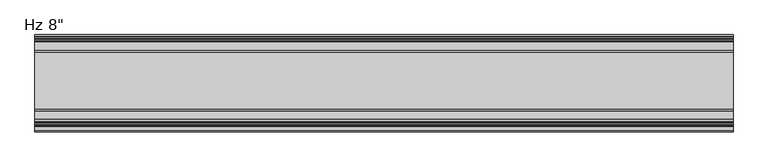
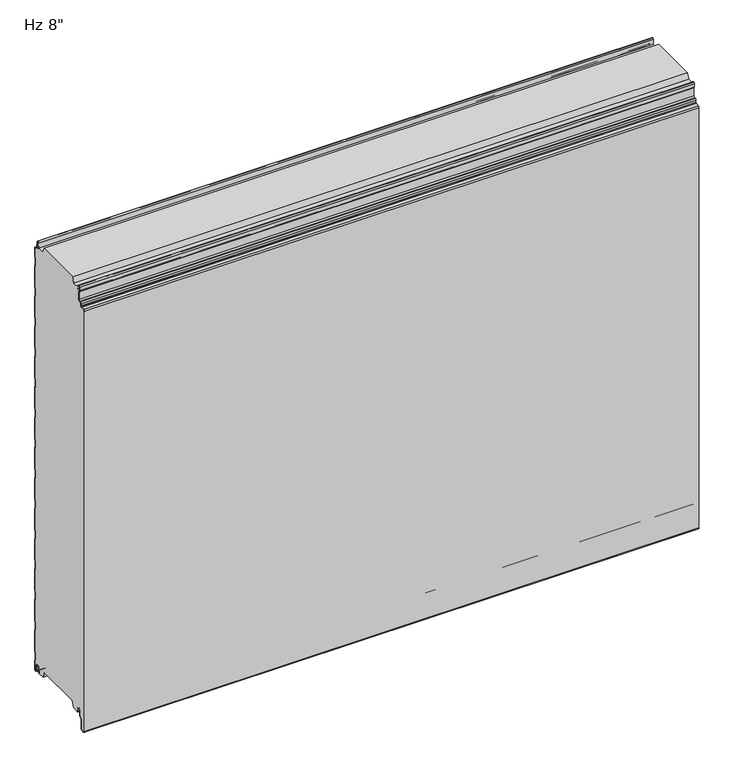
"""IFC4 building model written with IfcOpenShell, lengths in millimetres: plate geometry."""

import ifcopenshell
import ifcopenshell.guid

model = None  # the IFC model being written
_history = None  # IfcOwnerHistory: only IFC2X3 demands one
_inside = {}  # id of a spatial element -> (the spatial element, [elements in it])
_under = {}  # id of a project, library or spatial element -> (it, [spatial elements below it])
_declared = {}  # id of a project -> (the project, [libraries it declares])
_typed = {}  # id of a type object -> (the type object, [elements of that type])
_made_of = {}  # id of a material, layer set ... -> (it, [elements and type objects made of it])


def new_model(schema):
    """Start an empty IFC model of exactly this schema.

    Asked for "IFC4X3", IfcOpenShell would pick the latest addendum, in which some entities
    have other attributes; the version numbers below select the first issue.
    IFC2X3 requires an IfcOwnerHistory on every rooted entity: one is made here for all.
    """
    global model, _history
    if schema == "IFC4X3":
        model = ifcopenshell.file(schema_version=(4, 3, 0, 0))
    else:
        model = ifcopenshell.file(schema=schema)
    _inside.clear()
    _under.clear()
    _declared.clear()
    _typed.clear()
    _made_of.clear()
    _history = None
    if model.schema == "IFC2X3":
        org = make("IfcOrganization", Name="unknown")
        user = make(
            "IfcPersonAndOrganization",
            ThePerson=make("IfcPerson", FamilyName="unknown"),
            TheOrganization=org,
        )
        app = make(
            "IfcApplication",
            ApplicationDeveloper=org,
            Version="unknown",
            ApplicationFullName="unknown",
            ApplicationIdentifier="unknown",
        )
        _history = make(
            "IfcOwnerHistory",
            OwningUser=user,
            OwningApplication=app,
            ChangeAction="ADDED",
            CreationDate=0,
        )
    return model


def make(cls, **values):
    """One entity of the class cls with the attributes given. An attribute that is None is left unset."""
    return model.create_entity(
        cls, **{name: value for name, value in values.items() if value is not None}
    )


def rooted(cls, **values):
    """An entity with a GlobalId (a new one), such as an element, a storey or a relation."""
    return make(cls, GlobalId=ifcopenshell.guid.new(), OwnerHistory=_history, **values)


def si_unit(unit_type, name, prefix=None):
    """IfcSIUnit, for example si_unit("LENGTHUNIT", "METRE", prefix="MILLI")."""
    return make("IfcSIUnit", UnitType=unit_type, Prefix=prefix, Name=name)


def assignment(units):
    """IfcUnitAssignment: the units of a project."""
    return None if units is None else make("IfcUnitAssignment", Units=units)


def point(xyz):
    """IfcCartesianPoint."""
    return None if xyz is None else make("IfcCartesianPoint", Coordinates=xyz)


def direction(xyz):
    """IfcDirection."""
    return None if xyz is None else make("IfcDirection", DirectionRatios=xyz)


def frame(location, z_axis=None, x_axis=None):
    """IfcAxis2Placement3D, a coordinate frame: its origin and axes. An axis left out is left unset."""
    return make(
        "IfcAxis2Placement3D",
        Location=point(location),
        Axis=direction(z_axis),
        RefDirection=direction(x_axis),
    )


def frame_2d(location, x_axis=None):
    """IfcAxis2Placement2D, a coordinate frame in the plane: its origin and x axis."""
    return make(
        "IfcAxis2Placement2D", Location=point(location), RefDirection=direction(x_axis)
    )


def origin():
    """The frame at (0, 0, 0) with its axes left unset."""
    return frame((0.0, 0.0, 0.0))


def place(relative_to, where):
    """IfcLocalPlacement: puts the frame where relative to a parent placement (None: the world)."""
    return make(
        "IfcLocalPlacement", PlacementRelTo=relative_to, RelativePlacement=where
    )


def context(
    kind, dimensions, precision=None, world=None, true_north=None, identifier=None
):
    """IfcGeometricRepresentationContext, for example the 3D "Model" context."""
    return make(
        "IfcGeometricRepresentationContext",
        ContextIdentifier=identifier,
        ContextType=kind,
        CoordinateSpaceDimension=dimensions,
        Precision=precision,
        WorldCoordinateSystem=world,
        TrueNorth=true_north,
    )


def project(units=None, contexts=None):
    """IfcProject with its units and contexts."""
    return rooted(
        "IfcProject",
        Name="project",
        RepresentationContexts=contexts,
        UnitsInContext=assignment(units),
    )


def spatial(cls, under=None, at=None, **own):
    """A site, building, storey or space (cls), placed at a placement, below another one or the project."""
    s = rooted(cls, ObjectPlacement=at, **own)
    if under is not None:
        _under.setdefault(under.id(), (under, []))[1].append(s)
    return s


def polyline(points):
    """IfcPolyline through the points."""
    return make("IfcPolyline", Points=[point(p) for p in points])


def circle_curve(where, radius):
    """IfcCircle in the frame where."""
    return make("IfcCircle", Position=where, Radius=radius)


def trimmed(basis, trim1, trim2, sense, master):
    """IfcTrimmedCurve: the piece of a basis curve between two trims."""
    return make(
        "IfcTrimmedCurve",
        BasisCurve=basis,
        Trim1=trim1,
        Trim2=trim2,
        SenseAgreement=sense,
        MasterRepresentation=master,
    )


def segment(curve, same_sense, transition):
    """IfcCompositeCurveSegment."""
    return make(
        "IfcCompositeCurveSegment",
        Transition=transition,
        SameSense=same_sense,
        ParentCurve=curve,
    )


def composite_curve(segments, self_intersect=None):
    """IfcCompositeCurve: segments joined end to end."""
    return make("IfcCompositeCurve", Segments=segments, SelfIntersect=self_intersect)


def outline(outer, holes=None, kind="AREA"):
    """IfcArbitraryClosedProfileDef: a profile drawn as a closed curve; with holes, ...WithVoids."""
    if holes is None:
        return make("IfcArbitraryClosedProfileDef", ProfileType=kind, OuterCurve=outer)
    return make(
        "IfcArbitraryProfileDefWithVoids",
        ProfileType=kind,
        OuterCurve=outer,
        InnerCurves=holes,
    )


def extrude(swept, where, along, depth):
    """IfcExtrudedAreaSolid: the profile swept, set in the frame where, extruded along a direction by depth."""
    return make(
        "IfcExtrudedAreaSolid",
        SweptArea=swept,
        Position=where,
        ExtrudedDirection=direction(along),
        Depth=depth,
    )


def shape(context_of_items, identifier, shape_type, items):
    """IfcShapeRepresentation: the items that make up one representation, for example the "Body"."""
    return make(
        "IfcShapeRepresentation",
        ContextOfItems=context_of_items,
        RepresentationIdentifier=identifier,
        RepresentationType=shape_type,
        Items=items,
    )


def source(mapping_origin, context_of_items, identifier, shape_type, items):
    """IfcRepresentationMap: a shape defined once, which mapped items show again and again."""
    return make(
        "IfcRepresentationMap",
        MappingOrigin=mapping_origin,
        MappedRepresentation=shape(context_of_items, identifier, shape_type, items),
    )


def transform(
    local_origin,
    x_axis=None,
    y_axis=None,
    z_axis=None,
    scale=None,
    scale2=None,
    scale3=None,
    uniform=True,
):
    """IfcCartesianTransformationOperator3D, or its non-uniform kind. x_axis, y_axis, z_axis: its Axis1, 2, 3."""
    if uniform:
        return make(
            "IfcCartesianTransformationOperator3D",
            Axis1=direction(x_axis),
            Axis2=direction(y_axis),
            LocalOrigin=point(local_origin),
            Scale=scale,
            Axis3=direction(z_axis),
        )
    return make(
        "IfcCartesianTransformationOperator3DnonUniform",
        Axis1=direction(x_axis),
        Axis2=direction(y_axis),
        LocalOrigin=point(local_origin),
        Scale=scale,
        Axis3=direction(z_axis),
        Scale2=scale2,
        Scale3=scale3,
    )


def mapped(mapping_source, mapping_target):
    """IfcMappedItem: shows the shape of a source again, moved by a transform."""
    return make(
        "IfcMappedItem", MappingSource=mapping_source, MappingTarget=mapping_target
    )


def made_of(thing, what):
    """Note that an element or type object is made of a material, layer set ...; save() writes the relation."""
    if what is not None:
        _made_of.setdefault(what.id(), (what, []))[1].append(thing)
    return thing


def element(
    cls,
    number,
    at=None,
    inside=None,
    cuts=None,
    type_object=None,
    material=None,
    context=None,
    identifier="Body",
    shape_type=None,
    held_by="IfcProductDefinitionShape",
    body=None,
    shapes=None,
    **own,
):
    """One element of the class cls, such as IfcWall. Its Tag is "e" and its number.

    at: its placement. inside: the storey or other place that contains it. cuts: it is an
    opening in that element (IfcRelVoidsElement). A single representation is given by context,
    identifier, shape_type and body (its items); several are given by shapes. held_by: the class
    of the entity that holds the representations. save() writes the other relations.
    """
    e = rooted(cls, Tag="e%d" % number, ObjectPlacement=at, **own)
    if body is not None:
        shapes = [shape(context, identifier, shape_type, body)]
    if shapes is not None:
        e.Representation = make(held_by, Representations=shapes)
    if inside is not None:
        _inside.setdefault(inside.id(), (inside, []))[1].append(e)
    if cuts is not None:
        rooted(
            "IfcRelVoidsElement", RelatingBuildingElement=cuts, RelatedOpeningElement=e
        )
    if type_object is not None:
        _typed.setdefault(type_object.id(), (type_object, []))[1].append(e)
    return made_of(e, material)


def aggregate(whole, parts):
    """IfcRelAggregates: a whole, such as a stair, and the parts it consists of."""
    return rooted("IfcRelAggregates", RelatingObject=whole, RelatedObjects=parts)


def save(model, path):
    """Write the relations noted so far, then the file.

    IfcRelAggregates (storeys below a building ...), IfcRelContainedInSpatialStructure (elements
    in a storey), IfcRelDefinesByType, IfcRelAssociatesMaterial and IfcRelDeclares: one each for
    every whole, place, type object, material and project.
    """
    for whole, parts in _under.values():
        aggregate(whole, parts)
    for where, things in _inside.values():
        rooted(
            "IfcRelContainedInSpatialStructure",
            RelatedElements=things,
            RelatingStructure=where,
        )
    for kind, things in _typed.values():
        rooted("IfcRelDefinesByType", RelatedObjects=things, RelatingType=kind)
    for what, things in _made_of.values():
        rooted("IfcRelAssociatesMaterial", RelatedObjects=things, RelatingMaterial=what)
    for by, libraries in _declared.values():
        rooted("IfcRelDeclares", RelatingContext=by, RelatedDefinitions=libraries)
    model.write(path)


def plate_1017e4c0(model_context):
    return source(origin(), model_context, "Body", "SweptSolid", [
        extrude(outline(composite_curve([segment(trimmed(circle_curve(frame_2d((-178.4545168, 7.3245305)), 3.3499999), [point((-175.1045169, 7.3245305))], [point((-178.4545168, 10.6745305))], True, "CARTESIAN"), True, "CONTINUOUS"), segment(polyline([(-178.4545168, 10.6745305), (-182.8545166, 10.6745305)]), True, "CONTINUOUS"), segment(trimmed(circle_curve(frame_2d((-182.8545166, 7.3245305)), 3.3499999), [point((-182.8545166, 10.6745305))], [point((-186.2045165, 7.3245305))], True, "CARTESIAN"), True, "CONTINUOUS"), segment(polyline([(-186.2045165, 7.3245305), (-186.2045165, -4.4863817)]), True, "CONTINUOUS"), segment(trimmed(circle_curve(frame_2d((-187.9045165, -4.4863817)), 1.7), [point((-186.2045165, -4.4863817))], [point((-186.702435, -5.6884632))], False, "CARTESIAN"), True, "CONTINUOUS"), segment(polyline([(-186.702435, -5.6884632), (-191.4429939, -10.4290221)]), True, "CONTINUOUS"), segment(trimmed(circle_curve(frame_2d((-189.6045163, -12.2674998)), 2.6), [point((-191.4429939, -10.4290221))], [point((-192.2045163, -12.2674998))], True, "CARTESIAN"), True, "CONTINUOUS"), segment(polyline([(-192.2045163, -12.2674998), (-192.2045163, -33.274257)]), True, "CONTINUOUS"), segment(trimmed(circle_curve(frame_2d((-194.9045163, -33.274257)), 2.7), [point((-192.2045163, -33.274257))], [point((-194.6689835, -35.9639641))], False, "CARTESIAN"), True, "CONTINUOUS"), segment(polyline([(-194.6689835, -35.9639641), (-199.4159721, -36.3796493)]), True, "CONTINUOUS"), segment(trimmed(circle_curve(frame_2d((-199.6393488, -33.8287598)), 2.5606512), [point((-199.4159721, -36.3796493))], [point((-202.2, -33.8287598))], False, "CARTESIAN"), True, "CONTINUOUS"), segment(polyline([(-202.2, -33.8287598), (-202.2, 1021.0519049)]), True, "CONTINUOUS"), segment(trimmed(circle_curve(frame_2d((-200.3102824, 1021.0519049)), 1.8897176), [point((-202.2, 1021.0519049))], [point((-200.4750281, 1022.9344276))], False, "CARTESIAN"), True, "CONTINUOUS"), segment(polyline([(-200.4750281, 1022.9344276), (-191.9438082, 1023.6810226)]), True, "CONTINUOUS"), segment(trimmed(circle_curve(frame_2d((-192.2077531, 1026.6970773)), 3.027582), [point((-191.9438082, 1023.6810226))], [point((-190.3647769, 1024.2950591))], True, "CARTESIAN"), True, "CONTINUOUS"), segment(trimmed(circle_curve(frame_2d((-192.1909631, 1026.6751943)), 3.0), [point((-190.3647769, 1024.2950591))], [point((-189.1909787, 1026.6848525))], True, "CARTESIAN"), True, "CONTINUOUS"), segment(polyline([(-189.1909787, 1026.6848525), (-189.1909787, 1032.044966)]), True, "CONTINUOUS"), segment(trimmed(circle_curve(frame_2d((-187.3909787, 1032.044966)), 1.8), [point((-189.1909787, 1032.044966))], [point((-187.3909787, 1033.844966))], False, "CARTESIAN"), True, "CONTINUOUS"), segment(polyline([(-187.3909787, 1033.844966), (-185.100418, 1033.844966)]), True, "CONTINUOUS"), segment(trimmed(circle_curve(frame_2d((-185.100418, 1037.844966)), 4.0), [point((-185.100418, 1033.844966))], [point((-181.100418, 1037.844966))], True, "CARTESIAN"), True, "CONTINUOUS"), segment(polyline([(-181.100418, 1037.844966), (-181.100418, 1057.3824408)]), True, "CONTINUOUS"), segment(trimmed(circle_curve(frame_2d((-183.700418, 1057.3824408)), 2.6), [point((-181.100418, 1057.3824408))], [point((-181.9919416, 1059.3423154))], True, "CARTESIAN"), True, "CONTINUOUS"), segment(polyline([(-181.9919416, 1059.3423154), (-183.0769402, 1060.2881384), (-182.7263694, 1069.143097)]), True, "CONTINUOUS"), segment(trimmed(circle_curve(frame_2d((-180.6261346, 1069.059948)), 2.10188), [point((-182.7263694, 1069.143097))], [point((-178.5257796, 1069.1400009))], False, "CARTESIAN"), True, "CONTINUOUS"), segment(polyline([(-178.5257796, 1069.1400009), (-178.0370324, 1061.1295249), (-177.0388885, 1061.1904252), (-177.3157133, 1065.7275311), (-160.4948412, 1065.7275311), (-155.3615374, 1078.9274638), (-37.6469837, 1078.9274638), (-32.5136753, 1065.7275311), (-15.2947081, 1065.7275311), (-15.4069152, 1064.1283001), (-14.4093676, 1064.058309), (-13.4643757, 1077.5268011)]), True, "CONTINUOUS"), segment(trimmed(circle_curve(frame_2d((-11.7334815, 1077.4116442)), 1.7347206), [point((-13.4643757, 1077.5268011))], [point((-10.0073134, 1077.5836892))], False, "CARTESIAN"), True, "CONTINUOUS"), segment(polyline([(-10.0073134, 1077.5836892), (-8.4976379, 1063.0309438)]), True, "CONTINUOUS"), segment(trimmed(circle_curve(frame_2d((-4.0912842, 1063.4880509)), 4.43), [point((-8.4976379, 1063.0309438))], [point((-4.0912842, 1059.0580509))], True, "CARTESIAN"), True, "CONTINUOUS"), segment(polyline([(-4.0912842, 1059.0580509), (-2.3999791, 1059.0580509)]), True, "CONTINUOUS"), segment(trimmed(circle_curve(frame_2d((-2.3999791, 1057.6580509)), 1.4), [point((-2.3999791, 1059.0580509))], [point((-0.9999791, 1057.6580509))], False, "CARTESIAN"), True, "CONTINUOUS"), segment(polyline([(-0.9999791, 1057.6580509), (-0.9999791, 1034.7726138), (-2.2002307, 1033.5723621), (-2.2002307, 1013.9369024), (-1.0, 1012.7366717), (-1.0, 958.5891837), (-2.2002307, 957.3889529), (-2.2002307, 937.7534932), (-1.0, 936.5532625), (-1.0, 882.4057744), (-2.2002307, 881.2055437), (-2.2002307, 861.570084), (-1.0, 860.3698532), (-1.0, 806.2223652), (-2.2002307, 805.0221345), (-2.2002307, 785.3866748), (-1.0, 784.186444), (-1.0, 730.0225176), (-2.2002307, 728.8222869), (-2.2002307, 709.1868272), (-1.0, 707.9865964), (-1.0, 653.8391084), (-2.2002307, 652.6388777), (-2.2002307, 633.0034179), (-1.0, 631.8031872), (-1.0, 577.6556992), (-2.2002307, 576.4554684), (-2.2002307, 556.8200087), (-1.0, 555.619778), (-1.0, 501.4558516), (-2.2002307, 500.2556208), (-2.2002307, 480.6201611), (-1.0, 479.4199304), (-1.0, 425.2724424), (-2.2002307, 424.0722116), (-2.2002307, 404.4367519), (-1.0, 403.2365211), (-1.0, 349.0890331), (-2.2002307, 347.8888024), (-2.2002307, 328.2533427), (-1.0, 327.0531119), (-1.0, 272.8891855), (-2.2002307, 271.6889548), (-2.2002307, 252.0534951), (-1.0, 250.8532643), (-1.0, 196.7057763), (-2.2002307, 195.5055456), (-2.2002307, 175.8700858), (-1.0, 174.6698551), (-1.0, 120.5223671), (-2.2002307, 119.3221364), (-2.2002307, 99.6866766), (-1.0, 98.4864459), (-1.0, 44.3225195), (-2.2002307, 43.1222888), (-2.2002307, 23.486829), (-1.0000103, 22.2866086), (-1.0000103, -0.3839769)]), True, "CONTINUOUS"), segment(trimmed(circle_curve(frame_2d((-2.3984828, -0.4487243)), 1.3999705), [point((-1.0000103, -0.3839769))], [point((-2.3984828, -1.8486949))], False, "CARTESIAN"), True, "CONTINUOUS"), segment(polyline([(-2.3984828, -1.8486949), (-3.9515996, -1.8486949)]), True, "CONTINUOUS"), segment(trimmed(circle_curve(frame_2d((-3.9515996, 0.3613604)), 2.2100553), [point((-3.9515996, -1.8486949))], [point((-6.1616549, 0.3613604))], False, "CARTESIAN"), True, "CONTINUOUS"), segment(polyline([(-6.1616549, 0.3613604), (-6.1616549, 13.8905885)]), True, "CONTINUOUS"), segment(trimmed(circle_curve(frame_2d((-9.881641, 13.8905885)), 3.7199861), [point((-6.1616549, 13.8905885))], [point((-9.881641, 17.6105746))], True, "CARTESIAN"), True, "CONTINUOUS"), segment(polyline([(-9.881641, 17.6105746), (-13.5282389, 17.6105746)]), True, "CONTINUOUS"), segment(trimmed(circle_curve(frame_2d((-13.5282389, 13.8905782)), 3.7199964), [point((-13.5282389, 17.6105746))], [point((-17.2482353, 13.8905782))], True, "CARTESIAN"), True, "CONTINUOUS"), segment(polyline([(-17.2482353, 13.8905782), (-17.2482353, 7.5454603), (-18.1704184, 7.7080661), (-19.2730843, 1.454537)]), True, "CONTINUOUS"), segment(trimmed(circle_curve(frame_2d((-17.7722363, 1.189897)), 1.524001), [point((-19.2730843, 1.454537))], [point((-18.7244571, 0.0))], True, "CARTESIAN"), True, "CONTINUOUS"), segment(polyline([(-18.7244571, 0.0), (-33.5050578, 0.0), (-39.1301019, 14.9979533), (-153.3686066, 14.9979533), (-158.9928342, 0.0), (-174.0748213, 0.0)]), True, "CONTINUOUS"), segment(trimmed(circle_curve(frame_2d((-174.9060323, 0.8654988)), 1.2), [point((-174.0748213, 0.0))], [point((-173.7060333, 0.8670134))], True, "CARTESIAN"), True, "CONTINUOUS"), segment(polyline([(-173.7060333, 0.8670134), (-173.7060333, 4.6254142), (-175.1045169, 4.6254142), (-175.1045169, 7.3245305)]), True, "CONTINUOUS")], self_intersect=False)), frame((-730.0, 0.0, 0.0), z_axis=(1.0, 0.0, 0.0), x_axis=(0.0, 1.0, 0.0)), (0.0, 0.0, 1.0), 1460.0),
        extrude(outline(composite_curve([segment(trimmed(circle_curve(frame_2d((-2.3984828, -0.4487243)), 2.3999705), [point((-1.03e-05, -0.3639402))], [point((-2.3984828, -2.8486949))], False, "CARTESIAN"), True, "CONTINUOUS"), segment(polyline([(-2.3984828, -2.8486949), (-3.9515996, -2.8486949)]), True, "CONTINUOUS"), segment(trimmed(circle_curve(frame_2d((-3.9515996, 0.3613604)), 3.2100553), [point((-3.9515996, -2.8486949))], [point((-7.1616549, 0.3613604))], False, "CARTESIAN"), True, "CONTINUOUS"), segment(polyline([(-7.1616549, 0.3613604), (-7.1616549, 13.8905885)]), True, "CONTINUOUS"), segment(trimmed(circle_curve(frame_2d((-9.881641, 13.8905885)), 2.7199861), [point((-7.1616549, 13.8905885))], [point((-9.881641, 16.6105746))], True, "CARTESIAN"), True, "CONTINUOUS"), segment(polyline([(-9.881641, 16.6105746), (-13.5282389, 16.6105746)]), True, "CONTINUOUS"), segment(trimmed(circle_curve(frame_2d((-13.5282389, 13.8905782)), 2.7199964), [point((-13.5282389, 16.6105746))], [point((-16.2482353, 13.8905782))], True, "CARTESIAN"), True, "CONTINUOUS"), segment(polyline([(-16.2482353, 13.8905782), (-16.2482353, 1.189897)]), True, "CONTINUOUS"), segment(trimmed(circle_curve(frame_2d((-17.7722363, 1.189897)), 1.524001), [point((-16.2482353, 1.189897))], [point((-19.2730843, 1.454537))], False, "CARTESIAN"), True, "CONTINUOUS"), segment(polyline([(-19.2730843, 1.454537), (-18.1704184, 7.7080661), (-17.2482353, 7.5454603), (-17.2482353, 13.8905782)]), True, "CONTINUOUS"), segment(trimmed(circle_curve(frame_2d((-13.5282389, 13.8905782)), 3.7199964), [point((-17.2482353, 13.8905782))], [point((-13.5282389, 17.6105746))], False, "CARTESIAN"), True, "CONTINUOUS"), segment(polyline([(-13.5282389, 17.6105746), (-9.881641, 17.6105746)]), True, "CONTINUOUS"), segment(trimmed(circle_curve(frame_2d((-9.881641, 13.8905885)), 3.7199861), [point((-9.881641, 17.6105746))], [point((-6.1616549, 13.8905885))], False, "CARTESIAN"), True, "CONTINUOUS"), segment(polyline([(-6.1616549, 13.8905885), (-6.1616549, 0.3613604)]), True, "CONTINUOUS"), segment(trimmed(circle_curve(frame_2d((-3.9515996, 0.3613604)), 2.2100553), [point((-6.1616549, 0.3613604))], [point((-3.9515996, -1.8486949))], True, "CARTESIAN"), True, "CONTINUOUS"), segment(polyline([(-3.9515996, -1.8486949), (-2.3984828, -1.8486949)]), True, "CONTINUOUS"), segment(trimmed(circle_curve(frame_2d((-2.3984828, -0.4487243)), 1.3999705), [point((-2.3984828, -1.8486949))], [point((-1.0000103, -0.3839769))], True, "CARTESIAN"), True, "CONTINUOUS"), segment(polyline([(-1.0000103, -0.3839769), (-1.0000103, 22.2866086), (-2.2002307, 23.486829), (-2.2002307, 43.1222888), (-1.0, 44.3225195), (-1.0, 98.4864459), (-2.2002307, 99.6866766), (-2.2002307, 119.3221364), (-1.0, 120.5223671), (-1.0, 174.6698551), (-2.2002307, 175.8700858), (-2.2002307, 195.5055456), (-1.0, 196.7057763), (-1.0, 250.8532643), (-2.2002307, 252.0534951), (-2.2002307, 271.6889548), (-1.0, 272.8891855), (-1.0, 327.0531119), (-2.2002307, 328.2533427), (-2.2002307, 347.8888024), (-1.0, 349.0890331), (-1.0, 403.2365211), (-2.2002307, 404.4367519), (-2.2002307, 424.0722116), (-1.0, 425.2724424), (-1.0, 479.4199304), (-2.2002307, 480.6201611), (-2.2002307, 500.2556208), (-1.0, 501.4558516), (-1.0, 555.619778), (-2.2002307, 556.8200087), (-2.2002307, 576.4554684), (-1.0, 577.6556992), (-1.0, 631.8031872), (-2.2002307, 633.0034179), (-2.2002307, 652.6388777), (-1.0, 653.8391084), (-1.0, 707.9865964), (-2.2002307, 709.1868272), (-2.2002307, 728.8222869), (-1.0, 730.0225176), (-1.0, 784.186444), (-2.2002307, 785.3866748), (-2.2002307, 805.0221345), (-1.0, 806.2223652), (-1.0, 860.3698532), (-2.2002307, 861.570084), (-2.2002307, 881.2055437), (-1.0, 882.4057744), (-1.0, 936.5532625), (-2.2002307, 937.7534932), (-2.2002307, 957.3889529), (-1.0, 958.5891837), (-1.0, 1012.7366717), (-2.2002307, 1013.9369024), (-2.2002307, 1033.5723621), (-0.9999791, 1034.7726138), (-0.9999791, 1057.6580509)]), True, "CONTINUOUS"), segment(trimmed(circle_curve(frame_2d((-2.3999791, 1057.6580509)), 1.4), [point((-0.9999791, 1057.6580509))], [point((-2.3999791, 1059.0580509))], True, "CARTESIAN"), True, "CONTINUOUS"), segment(polyline([(-2.3999791, 1059.0580509), (-4.0912842, 1059.0580509)]), True, "CONTINUOUS"), segment(trimmed(circle_curve(frame_2d((-4.0912842, 1063.4880509)), 4.43), [point((-4.0912842, 1059.0580509))], [point((-8.4976379, 1063.0309438))], False, "CARTESIAN"), True, "CONTINUOUS"), segment(polyline([(-8.4976379, 1063.0309438), (-10.0073134, 1077.5836892)]), True, "CONTINUOUS"), segment(trimmed(circle_curve(frame_2d((-11.7334815, 1077.4116442)), 1.7347206), [point((-10.0073134, 1077.5836892))], [point((-13.4643757, 1077.5268011))], True, "CARTESIAN"), True, "CONTINUOUS"), segment(polyline([(-13.4643757, 1077.5268011), (-14.4093676, 1064.058309), (-15.4069152, 1064.1283001), (-14.4620355, 1077.5951929)]), True, "CONTINUOUS"), segment(trimmed(circle_curve(frame_2d((-11.7334815, 1077.4116442)), 2.7347206), [point((-14.4620355, 1077.5951929))], [point((-9.0124669, 1077.6850974))], False, "CARTESIAN"), True, "CONTINUOUS"), segment(polyline([(-9.0124669, 1077.6850974), (-7.5029757, 1063.1341282)]), True, "CONTINUOUS"), segment(trimmed(circle_curve(frame_2d((-4.0912842, 1063.4880509)), 3.43), [point((-7.5029757, 1063.1341282))], [point((-4.0912842, 1060.0580509))], True, "CARTESIAN"), True, "CONTINUOUS"), segment(polyline([(-4.0912842, 1060.0580509), (-2.3999791, 1060.0580509)]), True, "CONTINUOUS"), segment(trimmed(circle_curve(frame_2d((-2.3999791, 1057.6580509)), 2.4), [point((-2.3999791, 1060.0580509))], [point((2.09e-05, 1057.6580509))], False, "CARTESIAN"), True, "CONTINUOUS"), segment(polyline([(2.09e-05, 1057.6580509), (2.09e-05, 1034.3584002), (-1.2002307, 1033.1581486), (-1.2002307, 1014.351116), (0.0, 1013.1508852), (0.0, 958.1749701), (-1.2002307, 956.9747394), (-1.2002307, 938.1677068), (0.0, 936.967476), (0.0, 881.9915609), (-1.2002307, 880.7913301), (-1.2002307, 861.9842975), (0.0, 860.7840668), (0.0, 805.8081517), (-1.2002307, 804.6079209), (-1.2002307, 785.8008883), (0.0, 784.6006576), (0.0, 729.6083041), (-1.2002307, 728.4080733), (-1.2002307, 709.6010407), (0.0, 708.40081), (0.0, 653.4248948), (-1.2002307, 652.2246641), (-1.2002307, 633.4176315), (0.0, 632.2174008), (0.0, 577.2414856), (-1.2002307, 576.0412549), (-1.2002307, 557.2342223), (0.0, 556.0339915), (0.0, 501.041638), (-1.2002307, 499.8414073), (-1.2002307, 481.0343747), (0.0, 479.8341439), (0.0, 424.8582288), (-1.2002307, 423.6579981), (-1.2002307, 404.8509654), (0.0, 403.6507347), (0.0, 348.6748196), (-1.2002307, 347.4745888), (-1.2002307, 328.6675562), (0.0, 327.4673255), (0.0, 272.474972), (-1.2002307, 271.2747412), (-1.2002307, 252.4677086), (0.0, 251.2674779), (0.0, 196.2915628), (-1.2002307, 195.091332), (-1.2002307, 176.2842994), (0.0, 175.0840687), (0.0, 120.1081535), (-1.2002307, 118.9079228), (-1.2002307, 100.1008902), (0.0, 98.9006594), (0.0, 43.9083059), (-1.2002307, 42.7080752), (-1.2002307, 23.9010426), (-1.03e-05, 22.7008222), (-1.03e-05, -0.3639402)]), True, "CONTINUOUS")], self_intersect=False)), frame((-730.0, 0.0, 0.0), z_axis=(1.0, 0.0, 0.0), x_axis=(0.0, 1.0, 0.0)), (0.0, 0.0, 1.0), 1460.0),
        extrude(outline(composite_curve([segment(trimmed(circle_curve(frame_2d((-174.9060323, 0.8654988)), 1.2), [point((-173.7060333, 0.8670134))], [point((-176.1045169, 0.8052116))], False, "CARTESIAN"), True, "CONTINUOUS"), segment(polyline([(-176.1045169, 0.8052116), (-176.1045169, 7.3245305)]), True, "CONTINUOUS"), segment(trimmed(circle_curve(frame_2d((-178.4545168, 7.3245305)), 2.3499999), [point((-176.1045169, 7.3245305))], [point((-178.4545168, 9.6745305))], True, "CARTESIAN"), True, "CONTINUOUS"), segment(polyline([(-178.4545168, 9.6745305), (-182.8545166, 9.6745305)]), True, "CONTINUOUS"), segment(trimmed(circle_curve(frame_2d((-182.8545166, 7.3245305)), 2.3499999), [point((-182.8545166, 9.6745305))], [point((-185.2045165, 7.3245305))], True, "CARTESIAN"), True, "CONTINUOUS"), segment(polyline([(-185.2045165, 7.3245305), (-185.2045165, -4.4863817)]), True, "CONTINUOUS"), segment(trimmed(circle_curve(frame_2d((-187.9045165, -4.4863817)), 2.7), [point((-185.2045165, -4.4863817))], [point((-185.9953282, -6.39557))], False, "CARTESIAN"), True, "CONTINUOUS"), segment(polyline([(-185.9953282, -6.39557), (-190.7358871, -11.1361289)]), True, "CONTINUOUS"), segment(trimmed(circle_curve(frame_2d((-189.6045163, -12.2674998)), 1.6), [point((-190.7358871, -11.1361289))], [point((-191.2045163, -12.2674998))], True, "CARTESIAN"), True, "CONTINUOUS"), segment(polyline([(-191.2045163, -12.2674998), (-191.2045163, -33.274257)]), True, "CONTINUOUS"), segment(trimmed(circle_curve(frame_2d((-194.9045163, -33.274257)), 3.7), [point((-191.2045163, -33.274257))], [point((-194.5817491, -36.960152))], False, "CARTESIAN"), True, "CONTINUOUS"), segment(polyline([(-194.5817491, -36.960152), (-199.3287377, -37.3758371)]), True, "CONTINUOUS"), segment(trimmed(circle_curve(frame_2d((-199.6393488, -33.8287598)), 3.5606512), [point((-199.3287377, -37.3758371))], [point((-203.2, -33.8287598))], False, "CARTESIAN"), True, "CONTINUOUS"), segment(polyline([(-203.2, -33.8287598), (-203.2, 1021.0519049)]), True, "CONTINUOUS"), segment(trimmed(circle_curve(frame_2d((-200.3102824, 1021.0519049)), 2.8897176), [point((-203.2, 1021.0519049))], [point((-200.5622082, 1023.9306201))], False, "CARTESIAN"), True, "CONTINUOUS"), segment(polyline([(-200.5622082, 1023.9306201), (-192.0309883, 1024.6772152)]), True, "CONTINUOUS"), segment(trimmed(circle_curve(frame_2d((-192.2077531, 1026.6970773)), 2.027582), [point((-192.0309883, 1024.6772152))], [point((-190.9735057, 1025.0884375))], True, "CARTESIAN"), True, "CONTINUOUS"), segment(trimmed(circle_curve(frame_2d((-192.1909631, 1026.6751943)), 2.0), [point((-190.9735057, 1025.0884375))], [point((-190.1909787, 1026.6830802))], True, "CARTESIAN"), True, "CONTINUOUS"), segment(polyline([(-190.1909787, 1026.6830802), (-190.1909787, 1032.044966)]), True, "CONTINUOUS"), segment(trimmed(circle_curve(frame_2d((-187.3909787, 1032.044966)), 2.8), [point((-190.1909787, 1032.044966))], [point((-187.3909787, 1034.844966))], False, "CARTESIAN"), True, "CONTINUOUS"), segment(polyline([(-187.3909787, 1034.844966), (-185.100418, 1034.844966)]), True, "CONTINUOUS"), segment(trimmed(circle_curve(frame_2d((-185.100418, 1037.844966)), 3.0), [point((-185.100418, 1034.844966))], [point((-182.100418, 1037.844966))], True, "CARTESIAN"), True, "CONTINUOUS"), segment(polyline([(-182.100418, 1037.844966), (-182.100418, 1057.3824408)]), True, "CONTINUOUS"), segment(trimmed(circle_curve(frame_2d((-183.700418, 1057.3824408)), 1.6), [point((-182.100418, 1057.3824408))], [point((-182.6490479, 1058.5885175))], True, "CARTESIAN"), True, "CONTINUOUS"), segment(polyline([(-182.6490479, 1058.5885175), (-184.0951059, 1059.8490858), (-183.7255866, 1069.1826564)]), True, "CONTINUOUS"), segment(trimmed(circle_curve(frame_2d((-180.6261346, 1069.059948)), 3.10188), [point((-183.7255866, 1069.1826564))], [point((-177.5270077, 1069.1906064))], False, "CARTESIAN"), True, "CONTINUOUS"), segment(polyline([(-177.5270077, 1069.1906064), (-177.0388885, 1061.1904252), (-178.0370324, 1061.1295249), (-178.5257796, 1069.1400009)]), True, "CONTINUOUS"), segment(trimmed(circle_curve(frame_2d((-180.6261346, 1069.059948)), 2.10188), [point((-178.5257796, 1069.1400009))], [point((-182.7263694, 1069.143097))], True, "CARTESIAN"), True, "CONTINUOUS"), segment(polyline([(-182.7263694, 1069.143097), (-183.0769402, 1060.2881384), (-181.9919416, 1059.3423154)]), True, "CONTINUOUS"), segment(trimmed(circle_curve(frame_2d((-183.700418, 1057.3824408)), 2.6), [point((-181.9919416, 1059.3423154))], [point((-181.100418, 1057.3824408))], False, "CARTESIAN"), True, "CONTINUOUS"), segment(polyline([(-181.100418, 1057.3824408), (-181.100418, 1037.844966)]), True, "CONTINUOUS"), segment(trimmed(circle_curve(frame_2d((-185.100418, 1037.844966)), 4.0), [point((-181.100418, 1037.844966))], [point((-185.100418, 1033.844966))], False, "CARTESIAN"), True, "CONTINUOUS"), segment(polyline([(-185.100418, 1033.844966), (-187.3909787, 1033.844966)]), True, "CONTINUOUS"), segment(trimmed(circle_curve(frame_2d((-187.3909787, 1032.044966)), 1.8), [point((-187.3909787, 1033.844966))], [point((-189.1909787, 1032.044966))], True, "CARTESIAN"), True, "CONTINUOUS"), segment(polyline([(-189.1909787, 1032.044966), (-189.1909787, 1026.6848525)]), True, "CONTINUOUS"), segment(trimmed(circle_curve(frame_2d((-192.1909631, 1026.6751943)), 3.0), [point((-189.1909787, 1026.6848525))], [point((-190.3647769, 1024.2950591))], False, "CARTESIAN"), True, "CONTINUOUS"), segment(trimmed(circle_curve(frame_2d((-192.2077531, 1026.6970773)), 3.027582), [point((-190.3647769, 1024.2950591))], [point((-191.9438082, 1023.6810226))], False, "CARTESIAN"), True, "CONTINUOUS"), segment(polyline([(-191.9438082, 1023.6810226), (-200.4750281, 1022.9344276)]), True, "CONTINUOUS"), segment(trimmed(circle_curve(frame_2d((-200.3102824, 1021.0519049)), 1.8897176), [point((-200.4750281, 1022.9344276))], [point((-202.2, 1021.0519049))], True, "CARTESIAN"), True, "CONTINUOUS"), segment(polyline([(-202.2, 1021.0519049), (-202.2, -33.8287598)]), True, "CONTINUOUS"), segment(trimmed(circle_curve(frame_2d((-199.6393488, -33.8287598)), 2.5606512), [point((-202.2, -33.8287598))], [point((-199.4159721, -36.3796493))], True, "CARTESIAN"), True, "CONTINUOUS"), segment(polyline([(-199.4159721, -36.3796493), (-194.6689835, -35.9639641)]), True, "CONTINUOUS"), segment(trimmed(circle_curve(frame_2d((-194.9045163, -33.274257)), 2.7), [point((-194.6689835, -35.9639641))], [point((-192.2045163, -33.274257))], True, "CARTESIAN"), True, "CONTINUOUS"), segment(polyline([(-192.2045163, -33.274257), (-192.2045163, -12.2674998)]), True, "CONTINUOUS"), segment(trimmed(circle_curve(frame_2d((-189.6045163, -12.2674998)), 2.6), [point((-192.2045163, -12.2674998))], [point((-191.4429939, -10.4290221))], False, "CARTESIAN"), True, "CONTINUOUS"), segment(polyline([(-191.4429939, -10.4290221), (-186.702435, -5.6884632)]), True, "CONTINUOUS"), segment(trimmed(circle_curve(frame_2d((-187.9045165, -4.4863817)), 1.7), [point((-186.702435, -5.6884632))], [point((-186.2045165, -4.4863817))], True, "CARTESIAN"), True, "CONTINUOUS"), segment(polyline([(-186.2045165, -4.4863817), (-186.2045165, 7.3245305)]), True, "CONTINUOUS"), segment(trimmed(circle_curve(frame_2d((-182.8545166, 7.3245305)), 3.3499999), [point((-186.2045165, 7.3245305))], [point((-182.8545166, 10.6745305))], False, "CARTESIAN"), True, "CONTINUOUS"), segment(polyline([(-182.8545166, 10.6745305), (-178.4545168, 10.6745305)]), True, "CONTINUOUS"), segment(trimmed(circle_curve(frame_2d((-178.4545168, 7.3245305)), 3.3499999), [point((-178.4545168, 10.6745305))], [point((-175.1045169, 7.3245305))], False, "CARTESIAN"), True, "CONTINUOUS"), segment(polyline([(-175.1045169, 7.3245305), (-175.1045169, 4.6254142), (-173.7060333, 4.6254142), (-173.7060333, 0.8670134)]), True, "CONTINUOUS")], self_intersect=False)), frame((-730.0, 0.0, 0.0), z_axis=(1.0, 0.0, 0.0), x_axis=(0.0, 1.0, 0.0)), (0.0, 0.0, 1.0), 1460.0),
    ])


if __name__ == "__main__":
    model = new_model("IFC4")
    model_context = context("Model", 3, world=origin())
    ifc_project = project(units=[si_unit("LENGTHUNIT", "METRE", prefix="MILLI")], contexts=[model_context])
    site = spatial("IfcSite", under=ifc_project)
    building = spatial("IfcBuilding", under=site)
    placement = place(None, origin())
    plate_shape = plate_1017e4c0(model_context)
    element("IfcPlate", 1, ObjectType="KIP-42-KRHF-R19-CP-Hz-FL_SL : Hz 8\"", at=placement, inside=building, context=model_context, shape_type="MappedRepresentation", body=[
        mapped(plate_shape, transform((0.0, 0.0, 0.0), x_axis=(1.0, 0.0, 0.0), y_axis=(0.0, 1.0, 0.0), z_axis=(0.0, 0.0, 1.0))),
    ])
    save(model, "model.ifc")
